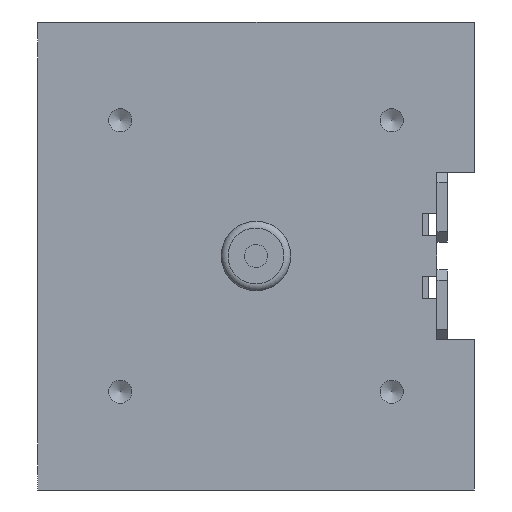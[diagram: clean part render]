
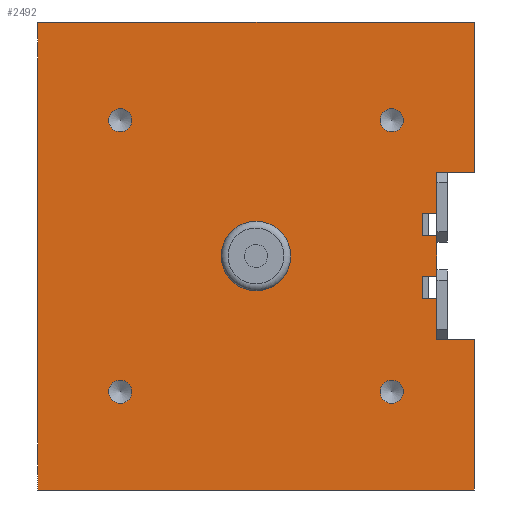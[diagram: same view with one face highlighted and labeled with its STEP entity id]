
A CAD part, front view. The second image highlights one B-rep face of the part: STEP entity #2492.
In plain terms, the highlighted planar face has unit normal (0, -1, 0).
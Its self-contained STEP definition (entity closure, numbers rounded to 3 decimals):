
#2286=CARTESIAN_POINT('',(0.,0.,-9.936));
#2287=VERTEX_POINT('',#2286);
#2288=CARTESIAN_POINT('',(0.,0.,0.));
#2289=DIRECTION('',(0.0,1.0,0.0));
#2290=DIRECTION('',(0.0,0.0,1.0));
#2291=AXIS2_PLACEMENT_3D('',#2288,#2289,#2290);
#2292=CIRCLE('',#2291,9.936);
#2293=EDGE_CURVE('',#2287,#2287,#2292,.T.);
#2310=CARTESIAN_POINT('',(2.68,0.,0.));
#2311=DIRECTION('',(0.0,1.0,0.0));
#2312=DIRECTION('',(0.0,0.0,1.0));
#2313=AXIS2_PLACEMENT_3D('',#2310,#2311,#2312);
#2314=PLANE('',#2313);
#2315=CARTESIAN_POINT('',(62.5,0.,-67.0));
#2316=VERTEX_POINT('',#2315);
#2317=CARTESIAN_POINT('',(-62.5,0.,-67.0));
#2318=VERTEX_POINT('',#2317);
#2319=CARTESIAN_POINT('',(62.5,0.,-67.0));
#2320=DIRECTION('',(-1.0,0.0,0.0));
#2321=VECTOR('',#2320,125.0);
#2322=LINE('',#2319,#2321);
#2323=EDGE_CURVE('',#2316,#2318,#2322,.T.);
#2324=ORIENTED_EDGE('',*,*,#2323,.F.);
#2325=CARTESIAN_POINT('',(62.5,0.,-24.));
#2326=VERTEX_POINT('',#2325);
#2327=CARTESIAN_POINT('',(62.5,0.,-24.));
#2328=DIRECTION('',(0.0,0.0,-1.0));
#2329=VECTOR('',#2328,43.);
#2330=LINE('',#2327,#2329);
#2331=EDGE_CURVE('',#2326,#2316,#2330,.T.);
#2332=ORIENTED_EDGE('',*,*,#2331,.F.);
#2333=CARTESIAN_POINT('',(51.8,0.,-24.));
#2334=VERTEX_POINT('',#2333);
#2335=CARTESIAN_POINT('',(51.8,0.,-24.));
#2336=DIRECTION('',(1.0,0.0,0.0));
#2337=VECTOR('',#2336,10.7);
#2338=LINE('',#2335,#2337);
#2339=EDGE_CURVE('',#2334,#2326,#2338,.T.);
#2340=ORIENTED_EDGE('',*,*,#2339,.F.);
#2341=CARTESIAN_POINT('',(51.8,0.,-12.2));
#2342=VERTEX_POINT('',#2341);
#2343=CARTESIAN_POINT('',(51.8,0.,-12.2));
#2344=DIRECTION('',(0.0,0.0,-1.0));
#2345=VECTOR('',#2344,11.8);
#2346=LINE('',#2343,#2345);
#2347=EDGE_CURVE('',#2342,#2334,#2346,.T.);
#2348=ORIENTED_EDGE('',*,*,#2347,.F.);
#2349=CARTESIAN_POINT('',(47.6,0.,-12.2));
#2350=VERTEX_POINT('',#2349);
#2351=CARTESIAN_POINT('',(47.6,0.,-12.2));
#2352=DIRECTION('',(1.0,0.0,0.0));
#2353=VECTOR('',#2352,4.2);
#2354=LINE('',#2351,#2353);
#2355=EDGE_CURVE('',#2350,#2342,#2354,.T.);
#2356=ORIENTED_EDGE('',*,*,#2355,.F.);
#2357=CARTESIAN_POINT('',(47.6,0.,-5.8));
#2358=VERTEX_POINT('',#2357);
#2359=CARTESIAN_POINT('',(47.6,0.,-5.8));
#2360=DIRECTION('',(0.0,0.0,-1.0));
#2361=VECTOR('',#2360,6.4);
#2362=LINE('',#2359,#2361);
#2363=EDGE_CURVE('',#2358,#2350,#2362,.T.);
#2364=ORIENTED_EDGE('',*,*,#2363,.F.);
#2365=CARTESIAN_POINT('',(51.8,0.,-5.8));
#2366=VERTEX_POINT('',#2365);
#2367=CARTESIAN_POINT('',(51.8,0.,-5.8));
#2368=DIRECTION('',(-1.0,0.0,0.0));
#2369=VECTOR('',#2368,4.2);
#2370=LINE('',#2367,#2369);
#2371=EDGE_CURVE('',#2366,#2358,#2370,.T.);
#2372=ORIENTED_EDGE('',*,*,#2371,.F.);
#2373=CARTESIAN_POINT('',(51.8,0.,5.8));
#2374=VERTEX_POINT('',#2373);
#2375=CARTESIAN_POINT('',(51.8,0.,5.8));
#2376=DIRECTION('',(0.0,0.0,-1.0));
#2377=VECTOR('',#2376,11.6);
#2378=LINE('',#2375,#2377);
#2379=EDGE_CURVE('',#2374,#2366,#2378,.T.);
#2380=ORIENTED_EDGE('',*,*,#2379,.F.);
#2381=CARTESIAN_POINT('',(47.6,0.,5.8));
#2382=VERTEX_POINT('',#2381);
#2383=CARTESIAN_POINT('',(47.6,0.,5.8));
#2384=DIRECTION('',(1.0,0.0,0.0));
#2385=VECTOR('',#2384,4.2);
#2386=LINE('',#2383,#2385);
#2387=EDGE_CURVE('',#2382,#2374,#2386,.T.);
#2388=ORIENTED_EDGE('',*,*,#2387,.F.);
#2389=CARTESIAN_POINT('',(47.6,0.,12.2));
#2390=VERTEX_POINT('',#2389);
#2391=CARTESIAN_POINT('',(47.6,0.,12.2));
#2392=DIRECTION('',(0.0,0.0,-1.0));
#2393=VECTOR('',#2392,6.4);
#2394=LINE('',#2391,#2393);
#2395=EDGE_CURVE('',#2390,#2382,#2394,.T.);
#2396=ORIENTED_EDGE('',*,*,#2395,.F.);
#2397=CARTESIAN_POINT('',(51.8,0.,12.2));
#2398=VERTEX_POINT('',#2397);
#2399=CARTESIAN_POINT('',(51.8,0.,12.2));
#2400=DIRECTION('',(-1.0,0.0,0.0));
#2401=VECTOR('',#2400,4.2);
#2402=LINE('',#2399,#2401);
#2403=EDGE_CURVE('',#2398,#2390,#2402,.T.);
#2404=ORIENTED_EDGE('',*,*,#2403,.F.);
#2405=CARTESIAN_POINT('',(51.8,0.,24.));
#2406=VERTEX_POINT('',#2405);
#2407=CARTESIAN_POINT('',(51.8,0.,24.));
#2408=DIRECTION('',(0.0,0.0,-1.0));
#2409=VECTOR('',#2408,11.8);
#2410=LINE('',#2407,#2409);
#2411=EDGE_CURVE('',#2406,#2398,#2410,.T.);
#2412=ORIENTED_EDGE('',*,*,#2411,.F.);
#2413=CARTESIAN_POINT('',(62.5,0.,24.));
#2414=VERTEX_POINT('',#2413);
#2415=CARTESIAN_POINT('',(62.5,0.,24.));
#2416=DIRECTION('',(-1.0,0.0,0.0));
#2417=VECTOR('',#2416,10.7);
#2418=LINE('',#2415,#2417);
#2419=EDGE_CURVE('',#2414,#2406,#2418,.T.);
#2420=ORIENTED_EDGE('',*,*,#2419,.F.);
#2421=CARTESIAN_POINT('',(62.5,0.,67.0));
#2422=VERTEX_POINT('',#2421);
#2423=CARTESIAN_POINT('',(62.5,0.,67.0));
#2424=DIRECTION('',(0.0,0.0,-1.0));
#2425=VECTOR('',#2424,43.);
#2426=LINE('',#2423,#2425);
#2427=EDGE_CURVE('',#2422,#2414,#2426,.T.);
#2428=ORIENTED_EDGE('',*,*,#2427,.F.);
#2429=CARTESIAN_POINT('',(-62.5,0.,67.0));
#2430=VERTEX_POINT('',#2429);
#2431=CARTESIAN_POINT('',(-62.5,0.,67.0));
#2432=DIRECTION('',(1.0,0.0,0.0));
#2433=VECTOR('',#2432,125.0);
#2434=LINE('',#2431,#2433);
#2435=EDGE_CURVE('',#2430,#2422,#2434,.T.);
#2436=ORIENTED_EDGE('',*,*,#2435,.F.);
#2437=CARTESIAN_POINT('',(-62.5,0.,-67.0));
#2438=DIRECTION('',(0.0,0.0,1.0));
#2439=VECTOR('',#2438,134.0);
#2440=LINE('',#2437,#2439);
#2441=EDGE_CURVE('',#2318,#2430,#2440,.T.);
#2442=ORIENTED_EDGE('',*,*,#2441,.F.);
#2443=EDGE_LOOP('',(#2324,#2332,#2340,#2348,#2356,#2364,#2372,#2380,#2388,#2396,#2404,#2412,#2420,#2428,#2436,#2442));
#2444=FACE_OUTER_BOUND('',#2443,.T.);
#2445=CARTESIAN_POINT('',(38.891,0.,-42.214));
#2446=VERTEX_POINT('',#2445);
#2447=CARTESIAN_POINT('',(38.891,0.,-38.891));
#2448=DIRECTION('',(0.0,1.0,0.0));
#2449=DIRECTION('',(0.0,0.0,-1.0));
#2450=AXIS2_PLACEMENT_3D('',#2447,#2448,#2449);
#2451=CIRCLE('',#2450,3.324);
#2452=EDGE_CURVE('',#2446,#2446,#2451,.T.);
#2453=ORIENTED_EDGE('',*,*,#2452,.T.);
#2454=EDGE_LOOP('',(#2453));
#2455=FACE_BOUND('',#2454,.T.);
#2456=CARTESIAN_POINT('',(38.891,0.,35.567));
#2457=VERTEX_POINT('',#2456);
#2458=CARTESIAN_POINT('',(38.891,0.,38.891));
#2459=DIRECTION('',(0.0,1.0,0.0));
#2460=DIRECTION('',(0.0,0.0,-1.0));
#2461=AXIS2_PLACEMENT_3D('',#2458,#2459,#2460);
#2462=CIRCLE('',#2461,3.324);
#2463=EDGE_CURVE('',#2457,#2457,#2462,.T.);
#2464=ORIENTED_EDGE('',*,*,#2463,.T.);
#2465=EDGE_LOOP('',(#2464));
#2466=FACE_BOUND('',#2465,.T.);
#2467=CARTESIAN_POINT('',(-38.891,0.,35.567));
#2468=VERTEX_POINT('',#2467);
#2469=CARTESIAN_POINT('',(-38.891,0.,38.891));
#2470=DIRECTION('',(0.0,1.0,0.0));
#2471=DIRECTION('',(0.0,0.0,-1.0));
#2472=AXIS2_PLACEMENT_3D('',#2469,#2470,#2471);
#2473=CIRCLE('',#2472,3.324);
#2474=EDGE_CURVE('',#2468,#2468,#2473,.T.);
#2475=ORIENTED_EDGE('',*,*,#2474,.T.);
#2476=EDGE_LOOP('',(#2475));
#2477=FACE_BOUND('',#2476,.T.);
#2478=CARTESIAN_POINT('',(-38.891,0.,-42.214));
#2479=VERTEX_POINT('',#2478);
#2480=CARTESIAN_POINT('',(-38.891,0.,-38.891));
#2481=DIRECTION('',(0.0,1.0,0.0));
#2482=DIRECTION('',(0.0,0.0,-1.0));
#2483=AXIS2_PLACEMENT_3D('',#2480,#2481,#2482);
#2484=CIRCLE('',#2483,3.324);
#2485=EDGE_CURVE('',#2479,#2479,#2484,.T.);
#2486=ORIENTED_EDGE('',*,*,#2485,.T.);
#2487=EDGE_LOOP('',(#2486));
#2488=FACE_BOUND('',#2487,.T.);
#2489=ORIENTED_EDGE('',*,*,#2293,.T.);
#2490=EDGE_LOOP('',(#2489));
#2491=FACE_BOUND('',#2490,.T.);
#2492=ADVANCED_FACE('',(#2444,#2455,#2466,#2477,#2488,#2491),#2314,.F.);
